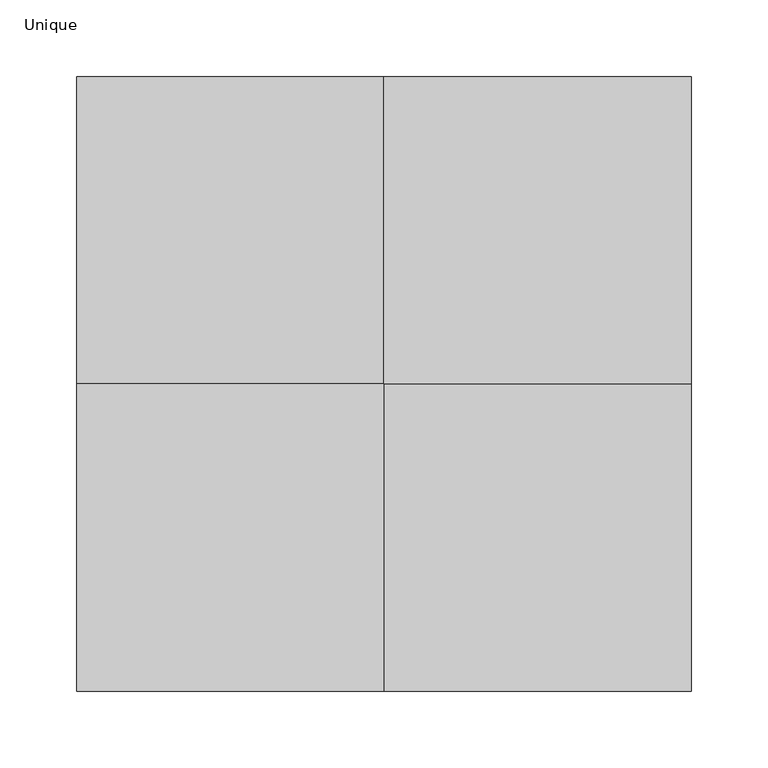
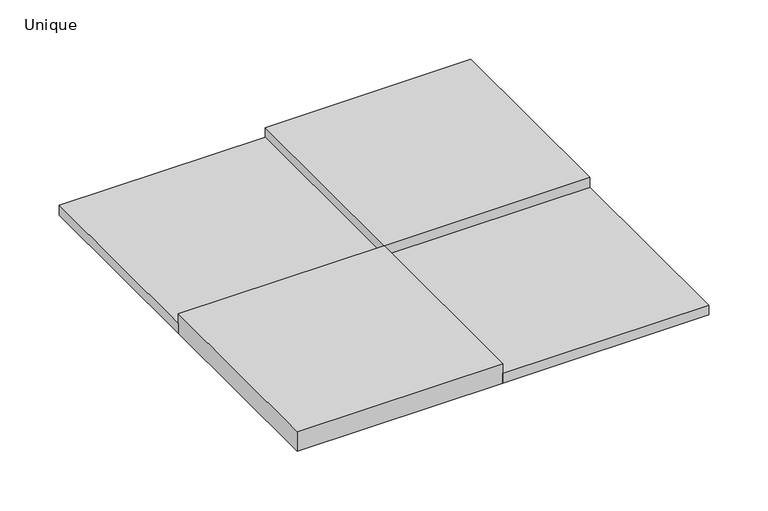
"""IFC4 building model written with IfcOpenShell, lengths in millimetres: furniture geometry, Pólis Square Panel : Unique."""

from ifc_helpers import new_model, si_unit, origin, origin_with_axes, place, context, project, spatial, polyline, outline, extrude, source, transform, mapped, element, save


def unique_9ae4535b(model_context):
    return source(origin(), model_context, "Body", "SweptSolid", [
        extrude(outline(polyline([(0.0, 0.0), (-200.0, 0.0), (-200.0, 200.0), (0.0, 200.0), (0.0, 0.0)])), origin_with_axes(), (0.0, 0.0, 1.0), 10.0),
        extrude(outline(polyline([(200.0, 0.0), (0.0, 0.0), (0.0, 200.0), (200.0, 200.0), (200.0, 0.0)])), origin_with_axes(), (0.0, 0.0, 1.0), 20.0),
        extrude(outline(polyline([(200.0, -200.0), (0.0, -200.0), (0.0, 0.0), (200.0, 0.0), (200.0, -200.0)])), origin_with_axes(), (0.0, 0.0, 1.0), 10.0),
        extrude(outline(polyline([(0.0, -200.0), (-200.0, -200.0), (-200.0, 0.0), (0.0, 0.0), (0.0, -200.0)])), origin_with_axes(), (0.0, 0.0, 1.0), 20.0),
    ])


if __name__ == "__main__":
    model = new_model("IFC4")
    model_context = context("Model", 3, world=origin())
    ifc_project = project(units=[si_unit("LENGTHUNIT", "METRE", prefix="MILLI")], contexts=[model_context])
    site = spatial("IfcSite", under=ifc_project)
    building = spatial("IfcBuilding", under=site)
    placement = place(None, origin())
    unique_shape = unique_9ae4535b(model_context)
    element("IfcFurniture", 1, ObjectType="Pólis Square Panel : Unique", at=placement, inside=building, context=model_context, shape_type="MappedRepresentation", body=[
        mapped(unique_shape, transform((0.0, 0.0, 0.0), x_axis=(1.0, 0.0, 0.0), y_axis=(0.0, 1.0, 0.0), z_axis=(0.0, 0.0, 1.0))),
    ])
    save(model, "model.ifc")
